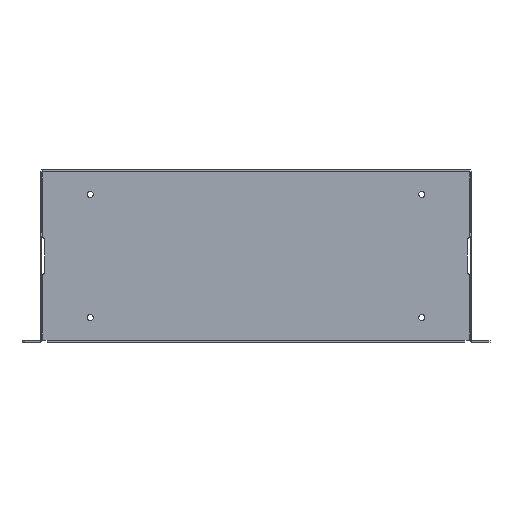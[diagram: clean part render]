
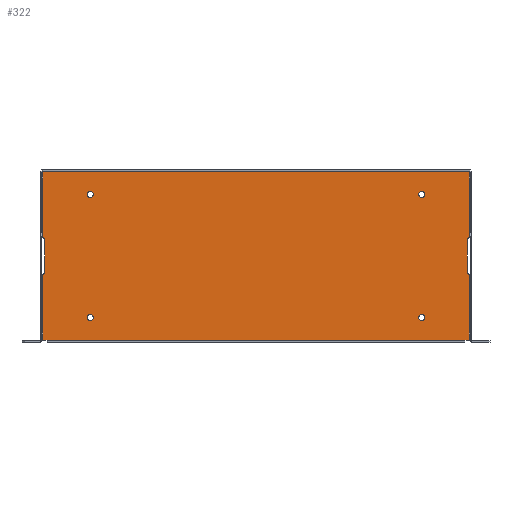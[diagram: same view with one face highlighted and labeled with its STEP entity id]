
A CAD part, top view. The second image highlights one B-rep face of the part: STEP entity #322.
In plain terms, the highlighted planar face has unit normal (0, 0, 1).
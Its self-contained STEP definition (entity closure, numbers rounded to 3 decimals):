
#322 = ADVANCED_FACE( '', ( #668, #669, #670, #671, #672 ), #673, .F. );
#668 = FACE_BOUND( '', #1241, .T. );
#669 = FACE_BOUND( '', #1242, .T. );
#670 = FACE_BOUND( '', #1243, .T. );
#671 = FACE_BOUND( '', #1244, .T. );
#672 = FACE_OUTER_BOUND( '', #1245, .T. );
#673 = PLANE( '', #1246 );
#1241 = EDGE_LOOP( '', ( #2146 ) );
#1242 = EDGE_LOOP( '', ( #2147 ) );
#1243 = EDGE_LOOP( '', ( #2148 ) );
#1244 = EDGE_LOOP( '', ( #2149 ) );
#1245 = EDGE_LOOP( '', ( #2150, #2151, #2152, #2153, #2154, #2155, #2156, #2157, #2158, #2159, #2160, #2161, #2162, #2163 ) );
#1246 = AXIS2_PLACEMENT_3D( '', #2164, #2165, #2166 );
#2146 = ORIENTED_EDGE( '', *, *, #2504, .F. );
#2147 = ORIENTED_EDGE( '', *, *, #2684, .F. );
#2148 = ORIENTED_EDGE( '', *, *, #2429, .F. );
#2149 = ORIENTED_EDGE( '', *, *, #2637, .F. );
#2150 = ORIENTED_EDGE( '', *, *, #2685, .F. );
#2151 = ORIENTED_EDGE( '', *, *, #2686, .T. );
#2152 = ORIENTED_EDGE( '', *, *, #2611, .F. );
#2153 = ORIENTED_EDGE( '', *, *, #2450, .T. );
#2154 = ORIENTED_EDGE( '', *, *, #2662, .F. );
#2155 = ORIENTED_EDGE( '', *, *, #2488, .T. );
#2156 = ORIENTED_EDGE( '', *, *, #2603, .F. );
#2157 = ORIENTED_EDGE( '', *, *, #2540, .T. );
#2158 = ORIENTED_EDGE( '', *, *, #2675, .F. );
#2159 = ORIENTED_EDGE( '', *, *, #2561, .F. );
#2160 = ORIENTED_EDGE( '', *, *, #2666, .F. );
#2161 = ORIENTED_EDGE( '', *, *, #2593, .F. );
#2162 = ORIENTED_EDGE( '', *, *, #2557, .F. );
#2163 = ORIENTED_EDGE( '', *, *, #2601, .T. );
#2164 = CARTESIAN_POINT( '', ( -222.25, 87.808, 1.448 ) );
#2165 = DIRECTION( '', ( 0., 0., -1. ) );
#2166 = DIRECTION( '', ( -1., 0., 0. ) );
#2429 = EDGE_CURVE( '', #2929, #2929, #2930, .T. );
#2450 = EDGE_CURVE( '', #2962, #2960, #2963, .F. );
#2488 = EDGE_CURVE( '', #3021, #3018, #3022, .T. );
#2504 = EDGE_CURVE( '', #3044, #3044, #3045, .T. );
#2540 = EDGE_CURVE( '', #3090, #3099, #3101, .T. );
#2557 = EDGE_CURVE( '', #2967, #3103, #3126, .T. );
#2561 = EDGE_CURVE( '', #3130, #3128, #3132, .F. );
#2593 = EDGE_CURVE( '', #3103, #3172, #3173, .F. );
#2601 = EDGE_CURVE( '', #2967, #2719, #3183, .T. );
#2603 = EDGE_CURVE( '', #3090, #3018, #3185, .F. );
#2611 = EDGE_CURVE( '', #2962, #3193, #3195, .T. );
#2637 = EDGE_CURVE( '', #3224, #3224, #3225, .T. );
#2662 = EDGE_CURVE( '', #3021, #2960, #3254, .T. );
#2666 = EDGE_CURVE( '', #3172, #3130, #3258, .F. );
#2675 = EDGE_CURVE( '', #3128, #3099, #3268, .T. );
#2684 = EDGE_CURVE( '', #3277, #3277, #3278, .T. );
#2685 = EDGE_CURVE( '', #2829, #2719, #3279, .T. );
#2686 = EDGE_CURVE( '', #2829, #3193, #3280, .F. );
#2719 = VERTEX_POINT( '', #3315 );
#2829 = VERTEX_POINT( '', #3474 );
#2929 = VERTEX_POINT( '', #3665 );
#2930 = CIRCLE( '', #3666, 3.175 );
#2960 = VERTEX_POINT( '', #3733 );
#2962 = VERTEX_POINT( '', #3736 );
#2963 = CIRCLE( '', #3737, 3.175 );
#2967 = VERTEX_POINT( '', #3742 );
#3018 = VERTEX_POINT( '', #3843 );
#3021 = VERTEX_POINT( '', #3847 );
#3022 = LINE( '', #3848, #3849 );
#3044 = VERTEX_POINT( '', #3889 );
#3045 = CIRCLE( '', #3890, 3.175 );
#3090 = VERTEX_POINT( '', #3965 );
#3099 = VERTEX_POINT( '', #3978 );
#3101 = LINE( '', #3980, #3981 );
#3103 = VERTEX_POINT( '', #3983 );
#3126 = LINE( '', #4026, #4027 );
#3128 = VERTEX_POINT( '', #4029 );
#3130 = VERTEX_POINT( '', #4032 );
#3132 = CIRCLE( '', #4035, 3.175 );
#3172 = VERTEX_POINT( '', #4119 );
#3173 = CIRCLE( '', #4120, 3.175 );
#3183 = LINE( '', #4148, #4149 );
#3185 = LINE( '', #4151, #4152 );
#3193 = VERTEX_POINT( '', #4161 );
#3195 = LINE( '', #4164, #4165 );
#3224 = VERTEX_POINT( '', #4213 );
#3225 = CIRCLE( '', #4214, 3.175 );
#3254 = LINE( '', #4273, #4274 );
#3258 = LINE( '', #4291, #4292 );
#3268 = LINE( '', #4304, #4305 );
#3277 = VERTEX_POINT( '', #4316 );
#3278 = CIRCLE( '', #4317, 3.175 );
#3279 = LINE( '', #4318, #4319 );
#3280 = CIRCLE( '', #4320, 3.175 );
#3315 = CARTESIAN_POINT( '', ( -220.066, 85.623, 1.448 ) );
#3474 = CARTESIAN_POINT( '', ( -220.066, 17.795, 1.448 ) );
#3665 = CARTESIAN_POINT( '', ( 174.219, 62.408, 1.448 ) );
#3666 = AXIS2_PLACEMENT_3D( '', #4494, #4495, #4496 );
#3733 = CARTESIAN_POINT( '', ( -220.066, -19.979, 1.448 ) );
#3736 = CARTESIAN_POINT( '', ( -217.894, -16.967, 1.448 ) );
#3737 = AXIS2_PLACEMENT_3D( '', #4520, #4521, #4522 );
#3742 = CARTESIAN_POINT( '', ( 220.066, 85.623, 1.448 ) );
#3843 = CARTESIAN_POINT( '', ( -215.494, -87.808, 1.448 ) );
#3847 = CARTESIAN_POINT( '', ( -220.066, -87.808, 1.448 ) );
#3848 = CARTESIAN_POINT( '', ( -222.25, -87.808, 1.448 ) );
#3849 = VECTOR( '', #4563, 1000. );
#3889 = CARTESIAN_POINT( '', ( -167.869, 62.408, 1.448 ) );
#3890 = AXIS2_PLACEMENT_3D( '', #4579, #4580, #4581 );
#3965 = CARTESIAN_POINT( '', ( 215.494, -87.808, 1.448 ) );
#3978 = CARTESIAN_POINT( '', ( 220.066, -87.808, 1.448 ) );
#3980 = CARTESIAN_POINT( '', ( -222.25, -87.808, 1.448 ) );
#3981 = VECTOR( '', #4619, 1000. );
#3983 = CARTESIAN_POINT( '', ( 220.066, 17.795, 1.448 ) );
#4026 = CARTESIAN_POINT( '', ( 220.066, 87.808, 1.448 ) );
#4027 = VECTOR( '', #4642, 1000. );
#4029 = CARTESIAN_POINT( '', ( 220.066, -19.979, 1.448 ) );
#4032 = CARTESIAN_POINT( '', ( 217.894, -16.967, 1.448 ) );
#4035 = AXIS2_PLACEMENT_3D( '', #4645, #4646, #4647 );
#4119 = CARTESIAN_POINT( '', ( 217.894, 14.783, 1.448 ) );
#4120 = AXIS2_PLACEMENT_3D( '', #4671, #4672, #4673 );
#4148 = CARTESIAN_POINT( '', ( -220.064, 85.623, 1.448 ) );
#4149 = VECTOR( '', #4680, 1000. );
#4151 = CARTESIAN_POINT( '', ( -220.066, -87.808, 1.448 ) );
#4152 = VECTOR( '', #4681, 1000. );
#4161 = CARTESIAN_POINT( '', ( -217.894, 14.783, 1.448 ) );
#4164 = CARTESIAN_POINT( '', ( -217.894, 87.808, 1.448 ) );
#4165 = VECTOR( '', #4690, 1000. );
#4213 = CARTESIAN_POINT( '', ( -167.869, -64.592, 1.448 ) );
#4214 = AXIS2_PLACEMENT_3D( '', #4713, #4714, #4715 );
#4273 = CARTESIAN_POINT( '', ( -220.066, -87.808, 1.448 ) );
#4274 = VECTOR( '', #4731, 1000. );
#4291 = CARTESIAN_POINT( '', ( 217.894, 87.808, 1.448 ) );
#4292 = VECTOR( '', #4732, 1000. );
#4304 = CARTESIAN_POINT( '', ( 220.066, 87.808, 1.448 ) );
#4305 = VECTOR( '', #4741, 1000. );
#4316 = CARTESIAN_POINT( '', ( 174.219, -64.592, 1.448 ) );
#4317 = AXIS2_PLACEMENT_3D( '', #4747, #4748, #4749 );
#4318 = CARTESIAN_POINT( '', ( -220.066, -87.808, 1.448 ) );
#4319 = VECTOR( '', #4750, 1000. );
#4320 = AXIS2_PLACEMENT_3D( '', #4751, #4752, #4753 );
#4494 = CARTESIAN_POINT( '', ( 171.044, 62.408, 1.448 ) );
#4495 = DIRECTION( '', ( 0., 0., 1. ) );
#4496 = DIRECTION( '', ( 1., 0., 0. ) );
#4520 = CARTESIAN_POINT( '', ( -221.069, -16.967, 1.448 ) );
#4521 = DIRECTION( '', ( 0., 0., 1. ) );
#4522 = DIRECTION( '', ( 1., 0., 0. ) );
#4563 = DIRECTION( '', ( 1., 0., 0. ) );
#4579 = CARTESIAN_POINT( '', ( -171.044, 62.408, 1.448 ) );
#4580 = DIRECTION( '', ( 0., 0., 1. ) );
#4581 = DIRECTION( '', ( 1., 0., 0. ) );
#4619 = DIRECTION( '', ( 1., 0., 0. ) );
#4642 = DIRECTION( '', ( 0., -1., 0. ) );
#4645 = CARTESIAN_POINT( '', ( 221.069, -16.967, 1.448 ) );
#4646 = DIRECTION( '', ( 0., 0., -1. ) );
#4647 = DIRECTION( '', ( -1., 0., 0. ) );
#4671 = CARTESIAN_POINT( '', ( 221.069, 14.783, 1.448 ) );
#4672 = DIRECTION( '', ( 0., 0., -1. ) );
#4673 = DIRECTION( '', ( -1., 0., 0. ) );
#4680 = DIRECTION( '', ( -1., 0., 0. ) );
#4681 = DIRECTION( '', ( 1., 0., 0. ) );
#4690 = DIRECTION( '', ( 0., 1., 0. ) );
#4713 = CARTESIAN_POINT( '', ( -171.044, -64.592, 1.448 ) );
#4714 = DIRECTION( '', ( 0., 0., 1. ) );
#4715 = DIRECTION( '', ( 1., 0., 0. ) );
#4731 = DIRECTION( '', ( 0., 1., 0. ) );
#4732 = DIRECTION( '', ( 0., 1., 0. ) );
#4741 = DIRECTION( '', ( 0., -1., 0. ) );
#4747 = CARTESIAN_POINT( '', ( 171.044, -64.592, 1.448 ) );
#4748 = DIRECTION( '', ( 0., 0., 1. ) );
#4749 = DIRECTION( '', ( 1., 0., 0. ) );
#4750 = DIRECTION( '', ( 0., 1., 0. ) );
#4751 = CARTESIAN_POINT( '', ( -221.069, 14.783, 1.448 ) );
#4752 = DIRECTION( '', ( 0., 0., 1. ) );
#4753 = DIRECTION( '', ( 1., 0., 0. ) );
